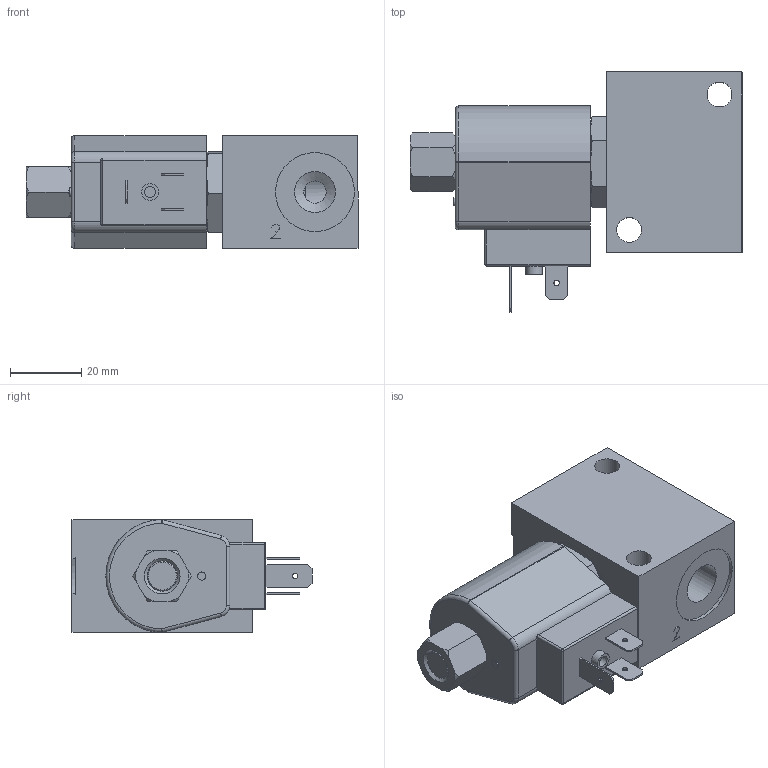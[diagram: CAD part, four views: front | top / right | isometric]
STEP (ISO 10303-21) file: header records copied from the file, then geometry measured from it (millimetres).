
FILE_DESCRIPTION( ( 'Unknown' ), '1' );
FILE_NAME( 'G:/Graphic Design/Graphic Design 2/Data Sheets/SOLENOID OPERATED VALVES/4_STEP/2W2P Normally Open/MA-S2C00-A2.stp', 'Unknown', ( 'Unknown' ), ( 'Unknown' ), 'PSStep 15.0.49', 'Unknown', ' ' );
FILE_SCHEMA( ( 'AUTOMOTIVE_DESIGN { 1 0 10303 214 1 1 1 1 }' ) );
Length unit declared in the file: millimetre
Products named in the file (15): D-MHC12; MHC_0; MAS2C00; MAS2C00-3D Full1; MAS2C00-3D Full2; MAS2C00-3D Full3; MAS2C00-3D Full4; Assem1; MAS2E00-3D Full1; MAS2E00-3D Full2; MAS2E00-3D Full3; MAS2E00-3D Full4; DELTA MINI NUT LONG ; B-DMAA2
Assembly tree (14 placements, depth 3):
  Assem1
    MAS2E00-3D Full1
    MAS2E00-3D Full2
    MAS2E00-3D Full3
    MAS2E00-3D Full4
    DELTA MINI NUT LONG 
    B-DMAA2
    D-MHC12
      MHC_0
    MAS2C00
      MAS2C00-3D Full1
      MAS2C00-3D Full2
      MAS2C00-3D Full3
      MAS2C00-3D Full4
      MAS2C00-3D Full4
Bounding box: 93.46 x 67.56 x 31.77 mm (x, y, z)
Volume: 86951.9 mm3; surface area: 28955.9 mm2
Topology: 10 solids, 124 shells, 294 faces, 970 edges, 813 vertices
Faces by surface type: plane 120, cylinder 85, cone 76, torus 9, sphere 4
Full cylindrical faces by diameter (mm): 0.2 x2, 1.524 x2, 1.536 x1, 2.286 x1, 3.175 x1, 4.763 x1, 6.3 x2, 7 x2, 8.509 x1, 9.804 x1, 9.881 x1, 9.893 x2, 11.5 x4, 12 x1, 12.535 x2, 12.573 x1, 12.7 x1, 13.081 x1, 14.348 x2, 16.48 x1, 22.22 x1, 26.975 x1
Entity records: 15691 total; most frequent: CARTESIAN_POINT 5656, DIRECTION 1383, ORIENTED_EDGE 1272, EDGE_CURVE 897, VERTEX_POINT 791, AXIS2_PLACEMENT_3D 520, EDGE_LOOP 385, LINE 343
